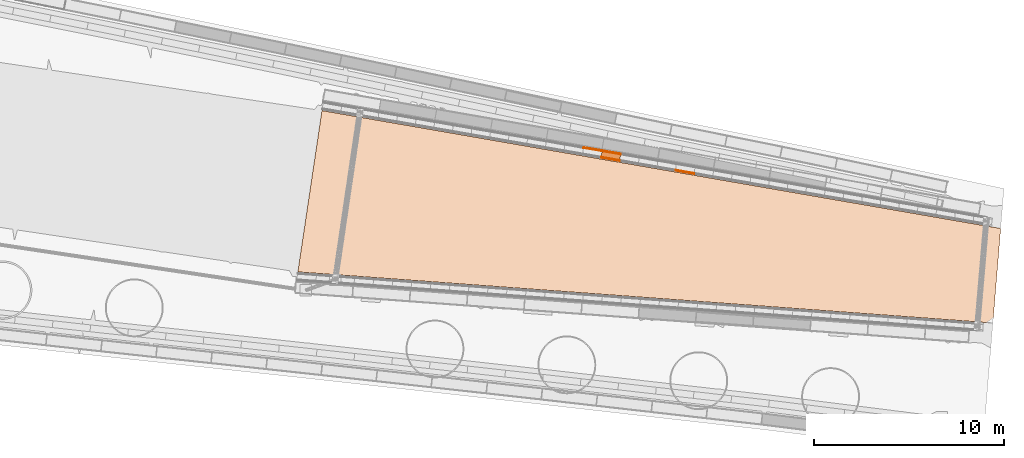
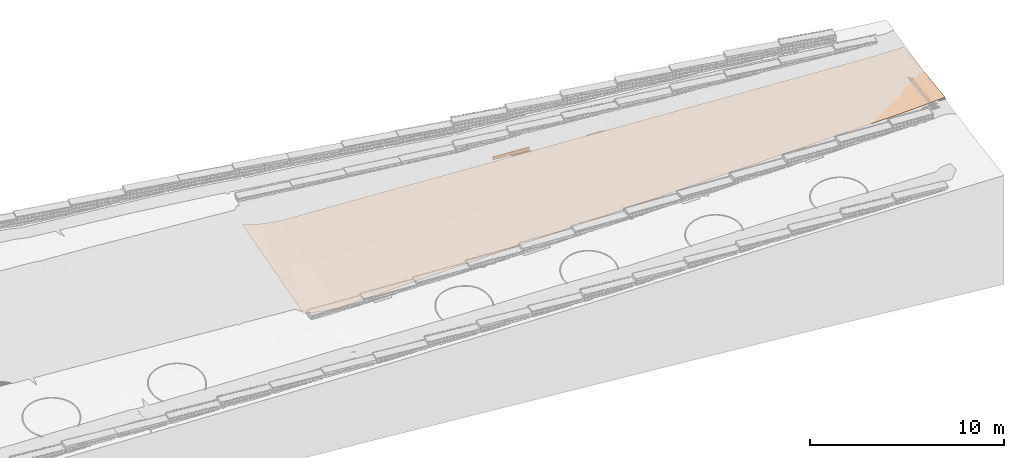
# Not in any storey, part 31 of 46: 5 proxies, 1 geographic element.
"""IFC4 model written with IfcOpenShell, lengths in metres."""

from ifc_helpers import new_model, si_unit, direction, frame, origin_with_axes, place, context, subcontext, project, spatial, polygons, material, element, save


model = new_model("IFC4")

# Units and contexts
model_context = context("Model", 3, precision=1e-05, world=origin_with_axes(), true_north=direction((0.0, 1.0)))
body_context = subcontext(model_context, "Body", "Model", "MODEL_VIEW")
ifc_project = project(units=[si_unit("VOLUMEUNIT", "CUBIC_METRE"), si_unit("LENGTHUNIT", "METRE"), si_unit("AREAUNIT", "SQUARE_METRE")], contexts=[model_context])

# Site
site_placement = place(None, origin_with_axes())
site = spatial("IfcSite", under=ifc_project, at=site_placement, Name="Lares · Rua das Mercês · artigo 4771")

# Geographic element
ifc_material_1 = material(Name="Pavimento rugoso · betão vassourado", Category="paving")
geographic_element_placement = place(site_placement, origin_with_axes())
element("IfcGeographicElement", 1, at=geographic_element_placement, inside=site, material=ifc_material_1, Name="Acesso trapezoidal · 8,60 m no pódio / 5,00 m na rua", ObjectType="Acesso trapezoidal · 8,60 m no pódio / 5,00 m na rua", PredefinedType="USERDEFINED", context=body_context, shape_type="Tessellation", body=[
    polygons([(47.2726755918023, 7.45513694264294, 13.86), (46.637095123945, 3.2023687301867, 13.86), (48.2651934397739, 7.33303730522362, 13.78), (48.2651934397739, 7.33303730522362, 13.78), (46.637095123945, 3.2023687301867, 13.86), (47.6414040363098, 3.1285378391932, 13.6737369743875), (47.9082560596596, 11.7079051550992, 13.86), (47.2726755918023, 7.45513694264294, 13.86), (48.8889828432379, 11.537536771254, 13.6737369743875), (48.8889828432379, 11.537536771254, 13.6737369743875), (47.2726755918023, 7.45513694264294, 13.86), (48.2651934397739, 7.33303730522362, 13.78), (48.2651934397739, 7.33303730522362, 13.78), (47.6414040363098, 3.1285378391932, 13.6737369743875), (49.2577112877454, 7.2109376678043, 13.7), (49.2577112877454, 7.2109376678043, 13.7), (47.6414040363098, 3.1285378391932, 13.6737369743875), (48.6457129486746, 3.0547069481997, 13.5949738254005), (48.8889828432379, 11.537536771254, 13.6737369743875), (48.2651934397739, 7.33303730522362, 13.78), (49.8697096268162, 11.3671683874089, 13.5949738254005), (49.8697096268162, 11.3671683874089, 13.5949738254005), (48.2651934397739, 7.33303730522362, 13.78), (49.2577112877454, 7.2109376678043, 13.7), (49.2577112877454, 7.2109376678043, 13.7), (48.6457129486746, 3.0547069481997, 13.5949738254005), (50.250229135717, 7.08883803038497, 13.78), (50.250229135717, 7.08883803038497, 13.78), (48.6457129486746, 3.0547069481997, 13.5949738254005), (49.6500218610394, 2.9808760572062, 13.6762105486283), (49.8697096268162, 11.3671683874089, 13.5949738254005), (49.2577112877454, 7.2109376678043, 13.7), (50.8504364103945, 11.1968000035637, 13.6762105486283), (50.8504364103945, 11.1968000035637, 13.6762105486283), (49.2577112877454, 7.2109376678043, 13.7), (50.250229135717, 7.08883803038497, 13.78), (50.250229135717, 7.08883803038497, 13.78), (49.6500218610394, 2.9808760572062, 13.6762105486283), (51.2427469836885, 6.96673839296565, 13.86), (51.2427469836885, 6.96673839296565, 13.86), (49.6500218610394, 2.9808760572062, 13.6762105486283), (50.6543307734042, 2.9070451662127, 13.7574471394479), (50.8504364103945, 11.1968000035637, 13.6762105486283), (50.250229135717, 7.08883803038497, 13.78), (51.8311631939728, 11.0264316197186, 13.7574471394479), (51.8311631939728, 11.0264316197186, 13.7574471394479), (50.250229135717, 7.08883803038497, 13.78), (51.2427469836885, 6.96673839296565, 13.86), (51.2427469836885, 6.96673839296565, 13.86), (50.6543307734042, 2.9070451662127, 13.7574471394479), (52.2352648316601, 6.84463875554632, 13.94), (52.2352648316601, 6.84463875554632, 13.94), (50.6543307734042, 2.9070451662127, 13.7574471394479), (51.658639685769, 2.8332142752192, 13.838683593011), (51.8311631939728, 11.0264316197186, 13.7574471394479), (51.2427469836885, 6.96673839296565, 13.86), (52.8118899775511, 10.8560632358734, 13.838683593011), (52.8118899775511, 10.8560632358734, 13.838683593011), (51.2427469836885, 6.96673839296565, 13.86), (52.2352648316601, 6.84463875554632, 13.94), (52.2352648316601, 6.84463875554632, 13.94), (51.658639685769, 2.8332142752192, 13.838683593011), (53.2277826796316, 6.722539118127, 14.0144580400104), (53.2277826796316, 6.722539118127, 14.0144580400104), (51.658639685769, 2.8332142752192, 13.838683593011), (52.6629485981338, 2.7593833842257, 13.9143779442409), (52.8118899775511, 10.8560632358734, 13.838683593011), (52.2352648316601, 6.84463875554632, 13.94), (53.7926167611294, 10.6856948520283, 13.9143779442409), (53.7926167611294, 10.6856948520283, 13.9143779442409), (52.2352648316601, 6.84463875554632, 13.94), (53.2277826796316, 6.722539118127, 14.0144580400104), (53.2277826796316, 6.722539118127, 14.0144580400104), (52.6629485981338, 2.7593833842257, 13.9143779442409), (54.2203005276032, 6.60043948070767, 14.0889160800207), (54.2203005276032, 6.60043948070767, 14.0889160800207), (52.6629485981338, 2.7593833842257, 13.9143779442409), (53.6672575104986, 2.6855524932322, 13.9900721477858), (53.7926167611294, 10.6856948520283, 13.9143779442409), (53.2277826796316, 6.722539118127, 14.0144580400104), (54.7733435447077, 10.5153264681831, 13.9900721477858), (54.7733435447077, 10.5153264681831, 13.9900721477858), (53.2277826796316, 6.722539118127, 14.0144580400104), (54.2203005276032, 6.60043948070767, 14.0889160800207), (54.2203005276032, 6.60043948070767, 14.0889160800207), (53.6672575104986, 2.6855524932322, 13.9900721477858), (55.2128183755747, 6.47833984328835, 14.1633741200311), (55.2128183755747, 6.47833984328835, 14.1633741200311), (53.6672575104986, 2.6855524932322, 13.9900721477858), (54.6715664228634, 2.6117216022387, 14.0657661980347), (54.7733435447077, 10.5153264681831, 13.9900721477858), (54.2203005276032, 6.60043948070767, 14.0889160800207), (55.754070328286, 10.344958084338, 14.0657661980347), (55.754070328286, 10.344958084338, 14.0657661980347), (54.2203005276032, 6.60043948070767, 14.0889160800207), (55.2128183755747, 6.47833984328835, 14.1633741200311), (55.2128183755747, 6.47833984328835, 14.1633741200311), (54.6715664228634, 2.6117216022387, 14.0657661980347), (56.2053362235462, 6.35624020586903, 14.2378321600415), (56.2053362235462, 6.35624020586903, 14.2378321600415), (54.6715664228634, 2.6117216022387, 14.0657661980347), (55.6758753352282, 2.5378907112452, 14.1414600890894), (55.754070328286, 10.344958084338, 14.0657661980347), (55.2128183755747, 6.47833984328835, 14.1633741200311), (56.7347971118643, 10.1745897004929, 14.1414600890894), (56.7347971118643, 10.1745897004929, 14.1414600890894), (55.2128183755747, 6.47833984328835, 14.1633741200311), (56.2053362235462, 6.35624020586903, 14.2378321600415), (56.2053362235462, 6.35624020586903, 14.2378321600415), (55.6758753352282, 2.5378907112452, 14.1414600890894), (57.1978540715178, 6.2341405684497, 14.3122902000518), (57.1978540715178, 6.2341405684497, 14.3122902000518), (55.6758753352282, 2.5378907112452, 14.1414600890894), (56.680184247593, 2.4640598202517, 14.2171538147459), (56.7347971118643, 10.1745897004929, 14.1414600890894), (56.2053362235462, 6.35624020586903, 14.2378321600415), (57.7155238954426, 10.0042213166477, 14.2171538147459), (57.7155238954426, 10.0042213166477, 14.2171538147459), (56.2053362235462, 6.35624020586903, 14.2378321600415), (57.1978540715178, 6.2341405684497, 14.3122902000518), (57.1978540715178, 6.2341405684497, 14.3122902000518), (56.680184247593, 2.4640598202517, 14.2171538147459), (58.1903719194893, 6.11204093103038, 14.3867482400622), (58.1903719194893, 6.11204093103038, 14.3867482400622), (56.680184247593, 2.4640598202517, 14.2171538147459), (57.6844931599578, 2.3902289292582, 14.2928473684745), (57.7155238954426, 10.0042213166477, 14.2171538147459), (57.1978540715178, 6.2341405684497, 14.3122902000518), (58.6962506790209, 9.83385293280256, 14.2928473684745), (58.6962506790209, 9.83385293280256, 14.2928473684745), (57.1978540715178, 6.2341405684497, 14.3122902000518), (58.1903719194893, 6.11204093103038, 14.3867482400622), (58.1903719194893, 6.11204093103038, 14.3867482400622), (57.6844931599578, 2.3902289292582, 14.2928473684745), (59.1828897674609, 5.98994129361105, 14.4612062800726), (59.1828897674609, 5.98994129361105, 14.4612062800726), (57.6844931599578, 2.3902289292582, 14.2928473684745), (58.6888020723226, 2.3163980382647, 14.3685407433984), (58.6962506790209, 9.83385293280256, 14.2928473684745), (58.1903719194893, 6.11204093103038, 14.3867482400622), (59.6769774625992, 9.66348454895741, 14.3685407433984), (59.6769774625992, 9.66348454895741, 14.3685407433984), (58.1903719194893, 6.11204093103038, 14.3867482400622), (59.1828897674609, 5.98994129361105, 14.4612062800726), (59.1828897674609, 5.98994129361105, 14.4612062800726), (58.6888020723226, 2.3163980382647, 14.3685407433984), (60.1754076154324, 5.86784165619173, 14.5356643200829), (60.1754076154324, 5.86784165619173, 14.5356643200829), (58.6888020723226, 2.3163980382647, 14.3685407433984), (59.6931109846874, 2.2425671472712, 14.4442339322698), (59.6769774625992, 9.66348454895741, 14.3685407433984), (59.1828897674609, 5.98994129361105, 14.4612062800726), (60.6577042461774, 9.49311616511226, 14.4442339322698), (60.6577042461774, 9.49311616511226, 14.4442339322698), (59.1828897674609, 5.98994129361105, 14.4612062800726), (60.1754076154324, 5.86784165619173, 14.5356643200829), (60.1754076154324, 5.86784165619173, 14.5356643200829), (59.6931109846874, 2.2425671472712, 14.4442339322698), (61.167925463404, 5.7457420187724, 14.6101223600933), (61.167925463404, 5.7457420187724, 14.6101223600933), (59.6931109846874, 2.2425671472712, 14.4442339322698), (60.6974198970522, 2.1687362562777, 14.5199269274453), (60.6577042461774, 9.49311616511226, 14.4442339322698), (60.1754076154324, 5.86784165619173, 14.5356643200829), (61.6384310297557, 9.32274778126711, 14.5199269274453), (61.6384310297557, 9.32274778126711, 14.5199269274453), (60.1754076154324, 5.86784165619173, 14.5356643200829), (61.167925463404, 5.7457420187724, 14.6101223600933), (61.167925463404, 5.7457420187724, 14.6101223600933), (60.6974198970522, 2.1687362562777, 14.5199269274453), (62.1604433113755, 5.62364238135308, 14.6845804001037), (62.1604433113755, 5.62364238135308, 14.6845804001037), (60.6974198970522, 2.1687362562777, 14.5199269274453), (61.701728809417, 2.0949053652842, 14.5956197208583), (61.6384310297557, 9.32274778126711, 14.5199269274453), (61.167925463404, 5.7457420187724, 14.6101223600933), (62.619157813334, 9.15237939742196, 14.5956197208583), (62.619157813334, 9.15237939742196, 14.5956197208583), (61.167925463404, 5.7457420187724, 14.6101223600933), (62.1604433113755, 5.62364238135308, 14.6845804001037), (62.1604433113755, 5.62364238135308, 14.6845804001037), (61.701728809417, 2.0949053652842, 14.5956197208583), (63.1529611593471, 5.50154274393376, 14.759038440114), (63.1529611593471, 5.50154274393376, 14.759038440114), (61.701728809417, 2.0949053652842, 14.5956197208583), (62.7060377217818, 2.0210744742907, 14.6713123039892), (62.619157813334, 9.15237939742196, 14.5956197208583), (62.1604433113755, 5.62364238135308, 14.6845804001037), (63.5998845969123, 8.98201101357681, 14.6713123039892), (63.5998845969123, 8.98201101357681, 14.6713123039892), (62.1604433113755, 5.62364238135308, 14.6845804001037), (63.1529611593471, 5.50154274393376, 14.759038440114), (63.1529611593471, 5.50154274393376, 14.759038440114), (62.7060377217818, 2.0210744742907, 14.6713123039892), (64.1454790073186, 5.37944310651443, 14.8334964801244), (64.1454790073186, 5.37944310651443, 14.8334964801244), (62.7060377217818, 2.0210744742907, 14.6713123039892), (63.7103466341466, 1.9472435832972, 14.7470046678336), (63.5998845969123, 8.98201101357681, 14.6713123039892), (63.1529611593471, 5.50154274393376, 14.759038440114), (64.5806113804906, 8.81164262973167, 14.7470046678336), (64.5806113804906, 8.81164262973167, 14.7470046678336), (63.1529611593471, 5.50154274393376, 14.759038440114), (64.1454790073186, 5.37944310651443, 14.8334964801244), (64.1454790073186, 5.37944310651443, 14.8334964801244), (63.7103466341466, 1.9472435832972, 14.7470046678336), (65.1379968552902, 5.25734346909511, 14.9079545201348), (65.1379968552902, 5.25734346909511, 14.9079545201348), (63.7103466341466, 1.9472435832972, 14.7470046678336), (64.7146555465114, 1.8734126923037, 14.8226968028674), (64.5806113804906, 8.81164262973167, 14.7470046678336), (64.1454790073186, 5.37944310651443, 14.8334964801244), (65.5613381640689, 8.64127424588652, 14.8226968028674), (65.5613381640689, 8.64127424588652, 14.8226968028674), (64.1454790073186, 5.37944310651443, 14.8334964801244), (65.1379968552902, 5.25734346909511, 14.9079545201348), (65.1379968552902, 5.25734346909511, 14.9079545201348), (64.7146555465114, 1.8734126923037, 14.8226968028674), (66.1305147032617, 5.13524383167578, 14.9824125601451), (66.1305147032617, 5.13524383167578, 14.9824125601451), (64.7146555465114, 1.8734126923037, 14.8226968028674), (65.7189644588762, 1.7995818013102, 14.8983886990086), (65.5613381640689, 8.64127424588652, 14.8226968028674), (65.1379968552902, 5.25734346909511, 14.9079545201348), (66.5420649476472, 8.47090586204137, 14.8983886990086), (66.5420649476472, 8.47090586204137, 14.8983886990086), (65.1379968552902, 5.25734346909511, 14.9079545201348), (66.1305147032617, 5.13524383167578, 14.9824125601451), (66.1305147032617, 5.13524383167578, 14.9824125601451), (65.7189644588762, 1.7995818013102, 14.8983886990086), (67.1230325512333, 5.01314419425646, 15.0568706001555), (67.1230325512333, 5.01314419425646, 15.0568706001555), (65.7189644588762, 1.7995818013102, 14.8983886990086), (66.723273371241, 1.7257509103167, 14.9740803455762), (66.5420649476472, 8.47090586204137, 14.8983886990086), (66.1305147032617, 5.13524383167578, 14.9824125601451), (67.5227917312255, 8.30053747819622, 14.9740803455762), (67.5227917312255, 8.30053747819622, 14.9740803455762), (66.1305147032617, 5.13524383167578, 14.9824125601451), (67.1230325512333, 5.01314419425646, 15.0568706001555), (67.1230325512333, 5.01314419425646, 15.0568706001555), (66.723273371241, 1.7257509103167, 14.9740803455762), (68.1155503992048, 4.89104455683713, 15.1313286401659), (68.1155503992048, 4.89104455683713, 15.1313286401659), (66.723273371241, 1.7257509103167, 14.9740803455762), (67.7275822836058, 1.6519200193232, 15.0497717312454), (67.5227917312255, 8.30053747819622, 14.9740803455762), (67.1230325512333, 5.01314419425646, 15.0568706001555), (68.5035185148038, 8.13016909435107, 15.0497717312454), (68.5035185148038, 8.13016909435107, 15.0497717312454), (67.1230325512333, 5.01314419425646, 15.0568706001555), (68.1155503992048, 4.89104455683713, 15.1313286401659), (68.1155503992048, 4.89104455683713, 15.1313286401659), (67.7275822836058, 1.6519200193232, 15.0497717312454), (69.1080682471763, 4.76894491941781, 15.2057866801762), (69.1080682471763, 4.76894491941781, 15.2057866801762), (67.7275822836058, 1.6519200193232, 15.0497717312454), (68.7318911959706, 1.5780891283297, 15.1254628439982), (68.5035185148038, 8.13016909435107, 15.0497717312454), (68.1155503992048, 4.89104455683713, 15.1313286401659), (69.4842452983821, 7.95980071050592, 15.1254628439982), (69.4842452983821, 7.95980071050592, 15.1254628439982), (68.1155503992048, 4.89104455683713, 15.1313286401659), (69.1080682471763, 4.76894491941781, 15.2057866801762), (69.1080682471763, 4.76894491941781, 15.2057866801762), (68.7318911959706, 1.5780891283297, 15.1254628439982), (70.1005860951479, 4.64684528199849, 15.2802447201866), (70.1005860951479, 4.64684528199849, 15.2802447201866), (68.7318911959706, 1.5780891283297, 15.1254628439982), (69.7362001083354, 1.5042582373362, 15.2011536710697), (69.4842452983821, 7.95980071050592, 15.1254628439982), (69.1080682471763, 4.76894491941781, 15.2057866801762), (70.4649720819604, 7.78943232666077, 15.2011536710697), (70.4649720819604, 7.78943232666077, 15.2011536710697), (69.1080682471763, 4.76894491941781, 15.2057866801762), (70.1005860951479, 4.64684528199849, 15.2802447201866), (70.1005860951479, 4.64684528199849, 15.2802447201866), (69.7362001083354, 1.5042582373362, 15.2011536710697), (71.0931039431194, 4.52474564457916, 15.354702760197), (71.0931039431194, 4.52474564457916, 15.354702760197), (69.7362001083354, 1.5042582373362, 15.2011536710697), (70.7405090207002, 1.4304273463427, 15.2768441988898), (70.4649720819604, 7.78943232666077, 15.2011536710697), (70.1005860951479, 4.64684528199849, 15.2802447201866), (71.4456988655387, 7.61906394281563, 15.2768441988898), (71.4456988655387, 7.61906394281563, 15.2768441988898), (70.1005860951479, 4.64684528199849, 15.2802447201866), (71.0931039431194, 4.52474564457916, 15.354702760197), (71.0931039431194, 4.52474564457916, 15.354702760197), (70.7405090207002, 1.4304273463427, 15.2768441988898), (72.085621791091, 4.40264600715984, 15.4291608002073), (72.085621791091, 4.40264600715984, 15.4291608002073), (70.7405090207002, 1.4304273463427, 15.2768441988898), (71.744817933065, 1.3565964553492, 15.3525344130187), (71.4456988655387, 7.61906394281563, 15.2768441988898), (71.0931039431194, 4.52474564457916, 15.354702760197), (72.426425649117, 7.44869555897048, 15.3525344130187), (72.426425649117, 7.44869555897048, 15.3525344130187), (71.0931039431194, 4.52474564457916, 15.354702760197), (72.085621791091, 4.40264600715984, 15.4291608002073), (72.085621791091, 4.40264600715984, 15.4291608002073), (71.744817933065, 1.3565964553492, 15.3525344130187), (73.0781396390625, 4.28054636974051, 15.5036188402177), (73.0781396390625, 4.28054636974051, 15.5036188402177), (71.744817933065, 1.3565964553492, 15.3525344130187), (72.7491268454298, 1.2827655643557, 15.4282242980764), (72.426425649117, 7.44869555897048, 15.3525344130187), (72.085621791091, 4.40264600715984, 15.4291608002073), (73.4071524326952, 7.27832717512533, 15.4282242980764), (73.4071524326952, 7.27832717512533, 15.4282242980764), (72.085621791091, 4.40264600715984, 15.4291608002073), (73.0781396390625, 4.28054636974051, 15.5036188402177), (73.0781396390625, 4.28054636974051, 15.5036188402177), (72.7491268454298, 1.2827655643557, 15.4282242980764), (74.0706574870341, 4.15844673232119, 15.578076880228), (74.0706574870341, 4.15844673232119, 15.578076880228), (72.7491268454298, 1.2827655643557, 15.4282242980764), (73.7534357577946, 1.2089346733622, 15.5039138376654), (73.4071524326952, 7.27832717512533, 15.4282242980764), (73.0781396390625, 4.28054636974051, 15.5036188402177), (74.3878792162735, 7.10795879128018, 15.5039138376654), (74.3878792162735, 7.10795879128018, 15.5039138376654), (73.0781396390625, 4.28054636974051, 15.5036188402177), (74.0706574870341, 4.15844673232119, 15.578076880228), (74.0706574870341, 4.15844673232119, 15.578076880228), (73.7534357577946, 1.2089346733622, 15.5039138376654), (75.0631753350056, 4.03634709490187, 15.6525349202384), (75.0631753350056, 4.03634709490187, 15.6525349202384), (73.7534357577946, 1.2089346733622, 15.5039138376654), (74.7577446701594, 1.1351037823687, 15.5796030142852), (74.3878792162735, 7.10795879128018, 15.5039138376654), (74.0706574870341, 4.15844673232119, 15.578076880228), (75.3686059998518, 6.93759040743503, 15.5796030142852), (75.3686059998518, 6.93759040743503, 15.5796030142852), (74.0706574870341, 4.15844673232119, 15.578076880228), (75.0631753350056, 4.03634709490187, 15.6525349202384), (75.0631753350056, 4.03634709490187, 15.6525349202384), (74.7577446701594, 1.1351037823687, 15.5796030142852), (76.0556931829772, 3.91424745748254, 15.7269929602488), (76.0556931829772, 3.91424745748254, 15.7269929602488), (74.7577446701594, 1.1351037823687, 15.5796030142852), (75.7620535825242, 1.0612728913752, 15.655291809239), (75.3686059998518, 6.93759040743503, 15.5796030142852), (75.0631753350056, 4.03634709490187, 15.6525349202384), (76.3493327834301, 6.76722202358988, 15.655291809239), (76.3493327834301, 6.76722202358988, 15.655291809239), (75.0631753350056, 4.03634709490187, 15.6525349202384), (76.0556931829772, 3.91424745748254, 15.7269929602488), (76.0556931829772, 3.91424745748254, 15.7269929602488), (75.7620535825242, 1.0612728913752, 15.655291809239), (77.0482110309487, 3.79214782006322, 15.8014510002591), (77.0482110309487, 3.79214782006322, 15.8014510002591), (75.7620535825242, 1.0612728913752, 15.655291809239), (76.766362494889, 0.987442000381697, 15.7309802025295), (76.3493327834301, 6.76722202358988, 15.655291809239), (76.0556931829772, 3.91424745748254, 15.7269929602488), (77.3300595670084, 6.59685363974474, 15.7309802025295), (77.3300595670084, 6.59685363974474, 15.7309802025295), (76.0556931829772, 3.91424745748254, 15.7269929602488), (77.0482110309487, 3.79214782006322, 15.8014510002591), (77.0482110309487, 3.79214782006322, 15.8014510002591), (76.766362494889, 0.987442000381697, 15.7309802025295), (78.0407288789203, 3.67004818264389, 15.8759090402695), (78.0407288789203, 3.67004818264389, 15.8759090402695), (76.766362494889, 0.987442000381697, 15.7309802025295), (77.7706714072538, 0.913611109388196, 15.8066681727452), (77.3300595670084, 6.59685363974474, 15.7309802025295), (77.0482110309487, 3.79214782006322, 15.8014510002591), (78.3107863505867, 6.42648525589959, 15.8066681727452), (78.3107863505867, 6.42648525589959, 15.8066681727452), (77.0482110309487, 3.79214782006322, 15.8014510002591), (78.0407288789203, 3.67004818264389, 15.8759090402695), (78.0407288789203, 3.67004818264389, 15.8759090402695), (77.7706714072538, 0.913611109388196, 15.8066681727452), (79.0332467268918, 3.54794854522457, 15.9503670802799), (79.0332467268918, 3.54794854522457, 15.9503670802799), (77.7706714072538, 0.913611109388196, 15.8066681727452), (78.7749803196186, 0.839780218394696, 15.8823556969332), (78.3107863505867, 6.42648525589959, 15.8066681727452), (78.0407288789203, 3.67004818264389, 15.8759090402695), (79.291513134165, 6.25611687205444, 15.8823556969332), (79.291513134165, 6.25611687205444, 15.8823556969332), (78.0407288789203, 3.67004818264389, 15.8759090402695), (79.0332467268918, 3.54794854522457, 15.9503670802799), (79.0332467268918, 3.54794854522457, 15.9503670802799), (78.7749803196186, 0.839780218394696, 15.8823556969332), (80.0257645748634, 3.42584890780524, 16.0248251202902), (80.0257645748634, 3.42584890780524, 16.0248251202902), (78.7749803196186, 0.839780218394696, 15.8823556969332), (79.7792892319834, 0.765949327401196, 15.9580427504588), (79.291513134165, 6.25611687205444, 15.8823556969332), (79.0332467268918, 3.54794854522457, 15.9503670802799), (80.2722399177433, 6.08574848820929, 15.9580427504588), (80.2722399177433, 6.08574848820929, 15.9580427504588), (79.0332467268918, 3.54794854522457, 15.9503670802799), (80.0257645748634, 3.42584890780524, 16.0248251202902), (80.0257645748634, 3.42584890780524, 16.0248251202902), (79.7792892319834, 0.765949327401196, 15.9580427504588), (81.0182824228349, 3.30374927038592, 16.0992831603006), (81.0182824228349, 3.30374927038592, 16.0992831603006), (79.7792892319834, 0.765949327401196, 15.9580427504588), (80.7835981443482, 0.692118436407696, 16.03372930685), (80.2722399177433, 6.08574848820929, 15.9580427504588), (80.0257645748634, 3.42584890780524, 16.0248251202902), (81.2529667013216, 5.91538010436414, 16.03372930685), (81.2529667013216, 5.91538010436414, 16.03372930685), (80.0257645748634, 3.42584890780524, 16.0248251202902), (81.0182824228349, 3.30374927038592, 16.0992831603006), (81.0182824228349, 3.30374927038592, 16.0992831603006), (80.7835981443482, 0.692118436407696, 16.03372930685), (82.0108002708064, 3.18164963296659, 16.173741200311), (82.0108002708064, 3.18164963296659, 16.173741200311), (80.7835981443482, 0.692118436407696, 16.03372930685), (81.787907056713, 0.618287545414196, 16.1258918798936), (81.2529667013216, 5.91538010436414, 16.03372930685), (81.0182824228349, 3.30374927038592, 16.0992831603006), (82.2336934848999, 5.74501172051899, 16.1258918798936), (82.2336934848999, 5.74501172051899, 16.1258918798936), (81.0182824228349, 3.30374927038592, 16.0992831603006), (82.0108002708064, 3.18164963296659, 16.173741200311), (82.0108002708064, 3.18164963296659, 16.173741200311), (81.787907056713, 0.618287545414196, 16.1258918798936), (82.6933710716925, 3.09767970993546, 16.2249472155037), (82.6933710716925, 3.09767970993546, 16.2249472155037), (81.787907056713, 0.618287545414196, 16.1258918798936), (82.4785867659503, 0.567512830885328, 16.1995545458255), (82.2336934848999, 5.74501172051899, 16.1258918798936), (82.0108002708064, 3.18164963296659, 16.173741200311), (82.9081553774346, 5.62784658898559, 16.1995545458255), (82.9081553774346, 5.62784658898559, 16.1995545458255), (82.0108002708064, 3.18164963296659, 16.173741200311), (82.6933710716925, 3.09767970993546, 16.2249472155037), (82.6933710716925, 3.09767970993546, 16.2249472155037), (82.4785867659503, 0.567512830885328, 16.1995545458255), (83.003318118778, 3.05954999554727, 16.2481992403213), (83.003318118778, 3.05954999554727, 16.2481992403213), (82.4785867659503, 0.567512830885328, 16.1995545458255), (82.7922159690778, 0.544456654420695, 16.2328121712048), (82.9081553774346, 5.62784658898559, 16.1995545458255), (82.6933710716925, 3.09767970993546, 16.2249472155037), (83.2144202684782, 5.57464333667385, 16.2328121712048), (83.2144202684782, 5.57464333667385, 16.2328121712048), (82.6933710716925, 3.09767970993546, 16.2249472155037), (83.003318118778, 3.05954999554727, 16.2481992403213), (83.003318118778, 3.05954999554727, 16.2481992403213), (82.7922159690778, 0.544456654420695, 16.2328121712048), (83.4873853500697, 2.99999999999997, 16.284513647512), (83.003318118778, 3.05954999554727, 16.2481992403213), (83.4873853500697, 2.99999999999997, 16.284513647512), (83.4873853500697, 3.0, 16.284513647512), (83.4873853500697, 3.0, 16.284513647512), (83.4873853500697, 2.99999999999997, 16.284513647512), (82.7922159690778, 0.544456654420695, 16.2328121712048), (83.4873853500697, 2.99999999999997, 16.284513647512), (82.7922159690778, 0.544456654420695, 16.2328121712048), (83.2820338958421, 0.508448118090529, 16.284513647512), (83.2144202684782, 5.57464333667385, 16.2328121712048), (83.003318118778, 3.05954999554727, 16.2481992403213), (83.6927368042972, 5.49155188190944, 16.284513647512), (83.2144202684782, 5.57464333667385, 16.2328121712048), (83.6927368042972, 5.49155188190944, 16.284513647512), (83.6927368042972, 5.49155188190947, 16.284513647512), (83.6927368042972, 5.49155188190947, 16.284513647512), (83.6927368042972, 5.49155188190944, 16.284513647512), (83.003318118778, 3.05954999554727, 16.2481992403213), (83.6927368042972, 5.49155188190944, 16.284513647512), (83.003318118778, 3.05954999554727, 16.2481992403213), (83.4873853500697, 3.0, 16.284513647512)], [[[1, 2, 3]], [[4, 5, 6]], [[7, 8, 9]], [[10, 11, 12]], [[13, 14, 15]], [[16, 17, 18]], [[19, 20, 21]], [[22, 23, 24]], [[25, 26, 27]], [[28, 29, 30]], [[31, 32, 33]], [[34, 35, 36]], [[37, 38, 39]], [[40, 41, 42]], [[43, 44, 45]], [[46, 47, 48]], [[49, 50, 51]], [[52, 53, 54]], [[55, 56, 57]], [[58, 59, 60]], [[61, 62, 63]], [[64, 65, 66]], [[67, 68, 69]], [[70, 71, 72]], [[73, 74, 75]], [[76, 77, 78]], [[79, 80, 81]], [[82, 83, 84]], [[85, 86, 87]], [[88, 89, 90]], [[91, 92, 93]], [[94, 95, 96]], [[97, 98, 99]], [[100, 101, 102]], [[103, 104, 105]], [[106, 107, 108]], [[109, 110, 111]], [[112, 113, 114]], [[115, 116, 117]], [[118, 119, 120]], [[121, 122, 123]], [[124, 125, 126]], [[127, 128, 129]], [[130, 131, 132]], [[133, 134, 135]], [[136, 137, 138]], [[139, 140, 141]], [[142, 143, 144]], [[145, 146, 147]], [[148, 149, 150]], [[151, 152, 153]], [[154, 155, 156]], [[157, 158, 159]], [[160, 161, 162]], [[163, 164, 165]], [[166, 167, 168]], [[169, 170, 171]], [[172, 173, 174]], [[175, 176, 177]], [[178, 179, 180]], [[181, 182, 183]], [[184, 185, 186]], [[187, 188, 189]], [[190, 191, 192]], [[193, 194, 195]], [[196, 197, 198]], [[199, 200, 201]], [[202, 203, 204]], [[205, 206, 207]], [[208, 209, 210]], [[211, 212, 213]], [[214, 215, 216]], [[217, 218, 219]], [[220, 221, 222]], [[223, 224, 225]], [[226, 227, 228]], [[229, 230, 231]], [[232, 233, 234]], [[235, 236, 237]], [[238, 239, 240]], [[241, 242, 243]], [[244, 245, 246]], [[247, 248, 249]], [[250, 251, 252]], [[253, 254, 255]], [[256, 257, 258]], [[259, 260, 261]], [[262, 263, 264]], [[265, 266, 267]], [[268, 269, 270]], [[271, 272, 273]], [[274, 275, 276]], [[277, 278, 279]], [[280, 281, 282]], [[283, 284, 285]], [[286, 287, 288]], [[289, 290, 291]], [[292, 293, 294]], [[295, 296, 297]], [[298, 299, 300]], [[301, 302, 303]], [[304, 305, 306]], [[307, 308, 309]], [[310, 311, 312]], [[313, 314, 315]], [[316, 317, 318]], [[319, 320, 321]], [[322, 323, 324]], [[325, 326, 327]], [[328, 329, 330]], [[331, 332, 333]], [[334, 335, 336]], [[337, 338, 339]], [[340, 341, 342]], [[343, 344, 345]], [[346, 347, 348]], [[349, 350, 351]], [[352, 353, 354]], [[355, 356, 357]], [[358, 359, 360]], [[361, 362, 363]], [[364, 365, 366]], [[367, 368, 369]], [[370, 371, 372]], [[373, 374, 375]], [[376, 377, 378]], [[379, 380, 381]], [[382, 383, 384]], [[385, 386, 387]], [[388, 389, 390]], [[391, 392, 393]], [[394, 395, 396]], [[397, 398, 399]], [[400, 401, 402]], [[403, 404, 405]], [[406, 407, 408]], [[409, 410, 411]], [[412, 413, 414]], [[415, 416, 417]], [[418, 419, 420]], [[421, 422, 423]], [[424, 425, 426]], [[427, 428, 429]], [[430, 431, 432]], [[433, 434, 435]], [[436, 437, 438]], [[439, 440, 441]], [[442, 443, 444]], [[445, 446, 447]], [[448, 449, 450]], [[451, 452, 453]], [[454, 455, 456]], [[457, 458, 459]], [[460, 461, 462]], [[463, 464, 465]], [[466, 467, 468]]]),
])

# Proxies
ifc_material_2 = material(Name="Caleiras · betão", Category="concrete")
proxy_1_placement = place(site_placement, frame((0.0, 0.0, 0.0), z_axis=(0.0, 0.0, 1.0), x_axis=(1.0, -1.03767253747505e-17, 0.0)))
element("IfcBuildingElementProxy", 2, at=proxy_1_placement, inside=site, material=ifc_material_2, Name="Acesso · canal lateral", ObjectType="Acesso · canal lateral", PredefinedType="USERDEFINED", context=body_context, shape_type="Tessellation", body=[
    polygons([(61.6917883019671, 9.72926097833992, 14.2901223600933), (61.6982716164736, 9.77883886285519, 14.2901223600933), (62.6786075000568, 9.6085215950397, 14.3645804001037), (62.6721241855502, 9.55894371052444, 14.3645804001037), (61.6917883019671, 9.72926097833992, 14.4901223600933), (61.6982716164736, 9.77883886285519, 14.4901223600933), (62.6786075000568, 9.6085215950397, 14.5645804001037), (62.6721241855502, 9.55894371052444, 14.5645804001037)], [[[4, 3, 2, 1]], [[5, 6, 7, 8]], [[1, 2, 6, 5]], [[2, 3, 7, 6]], [[3, 4, 8, 7]], [[4, 1, 5, 8]]]),
])
proxy_2_placement = place(site_placement, frame((0.0, 0.0, 0.0), z_axis=(0.0, 0.0, 1.0), x_axis=(1.0, -1.03767253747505e-17, 0.0)))
element("IfcBuildingElementProxy", 3, at=proxy_2_placement, inside=site, material=ifc_material_2, Name="Acesso · canal lateral", ObjectType="Acesso · canal lateral", PredefinedType="USERDEFINED", context=body_context, shape_type="Tessellation", body=[
    polygons([(62.6270458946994, 9.2118588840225, 14.3045804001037), (62.6783025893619, 9.60856122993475, 14.3045804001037), (63.6586273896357, 9.43824478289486, 14.379038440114), (63.6073706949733, 9.04154243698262, 14.379038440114), (62.6270458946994, 9.2118588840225, 14.3645804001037), (62.6783025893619, 9.60856122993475, 14.3645804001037), (63.6586273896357, 9.43824478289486, 14.439038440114), (63.6073706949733, 9.04154243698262, 14.439038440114)], [[[4, 3, 2, 1]], [[5, 6, 7, 8]], [[1, 2, 6, 5]], [[2, 3, 7, 6]], [[3, 4, 8, 7]], [[4, 1, 5, 8]]]),
])
proxy_3_placement = place(site_placement, frame((0.0, 0.0, 0.0), z_axis=(0.0, 0.0, 1.0), x_axis=(1.0, -1.03767253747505e-17, 0.0)))
element("IfcBuildingElementProxy", 4, at=proxy_3_placement, inside=site, material=ifc_material_2, Name="Acesso · canal lateral", ObjectType="Acesso · canal lateral", PredefinedType="USERDEFINED", context=body_context, shape_type="Tessellation", body=[
    polygons([(62.6270458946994, 9.2118588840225, 14.3645804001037), (62.6334529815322, 9.26144667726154, 14.3645804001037), (63.6137777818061, 9.09113023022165, 14.439038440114), (63.6073706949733, 9.04154243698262, 14.439038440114), (62.6270458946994, 9.2118588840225, 14.5645804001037), (62.6334529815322, 9.26144667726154, 14.5645804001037), (63.6137777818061, 9.09113023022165, 14.639038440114), (63.6073706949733, 9.04154243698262, 14.639038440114)], [[[4, 3, 2, 1]], [[5, 6, 7, 8]], [[1, 2, 6, 5]], [[2, 3, 7, 6]], [[3, 4, 8, 7]], [[4, 1, 5, 8]]]),
])
proxy_4_placement = place(site_placement, frame((0.0, 0.0, 0.0), z_axis=(0.0, 0.0, 1.0), x_axis=(1.0, -1.03767253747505e-17, 0.0)))
element("IfcBuildingElementProxy", 5, at=proxy_4_placement, inside=site, material=ifc_material_2, Name="Acesso · canal lateral", ObjectType="Acesso · canal lateral", PredefinedType="USERDEFINED", context=body_context, shape_type="Tessellation", body=[
    polygons([(62.6718955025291, 9.55897343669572, 14.3645804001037), (62.6783025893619, 9.60856122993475, 14.3645804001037), (63.6586273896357, 9.43824478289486, 14.439038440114), (63.6522203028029, 9.38865698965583, 14.439038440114), (62.6718955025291, 9.55897343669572, 14.5645804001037), (62.6783025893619, 9.60856122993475, 14.5645804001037), (63.6586273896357, 9.43824478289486, 14.639038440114), (63.6522203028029, 9.38865698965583, 14.639038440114)], [[[4, 3, 2, 1]], [[5, 6, 7, 8]], [[1, 2, 6, 5]], [[2, 3, 7, 6]], [[3, 4, 8, 7]], [[4, 1, 5, 8]]]),
])
proxy_5_placement = place(site_placement, frame((0.0, 0.0, 0.0), z_axis=(0.0, 0.0, 1.0), x_axis=(1.0, -1.03767253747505e-17, 0.0)))
element("IfcBuildingElementProxy", 6, at=proxy_5_placement, inside=site, material=ifc_material_2, Name="Acesso · canal lateral", ObjectType="Acesso · canal lateral", PredefinedType="USERDEFINED", context=body_context, shape_type="Tessellation", body=[
    polygons([(66.5495842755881, 8.53043315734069, 14.6624125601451), (66.5556637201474, 8.58006218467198, 14.6624125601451), (67.5359391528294, 8.40974908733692, 14.7368706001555), (67.5298597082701, 8.36012006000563, 14.7368706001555), (66.5495842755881, 8.53043315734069, 14.8624125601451), (66.5556637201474, 8.58006218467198, 14.8624125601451), (67.5359391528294, 8.40974908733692, 14.9368706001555), (67.5298597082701, 8.36012006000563, 14.9368706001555)], [[[4, 3, 2, 1]], [[5, 6, 7, 8]], [[1, 2, 6, 5]], [[2, 3, 7, 6]], [[3, 4, 8, 7]], [[4, 1, 5, 8]]]),
])

save(model, "model.ifc")
